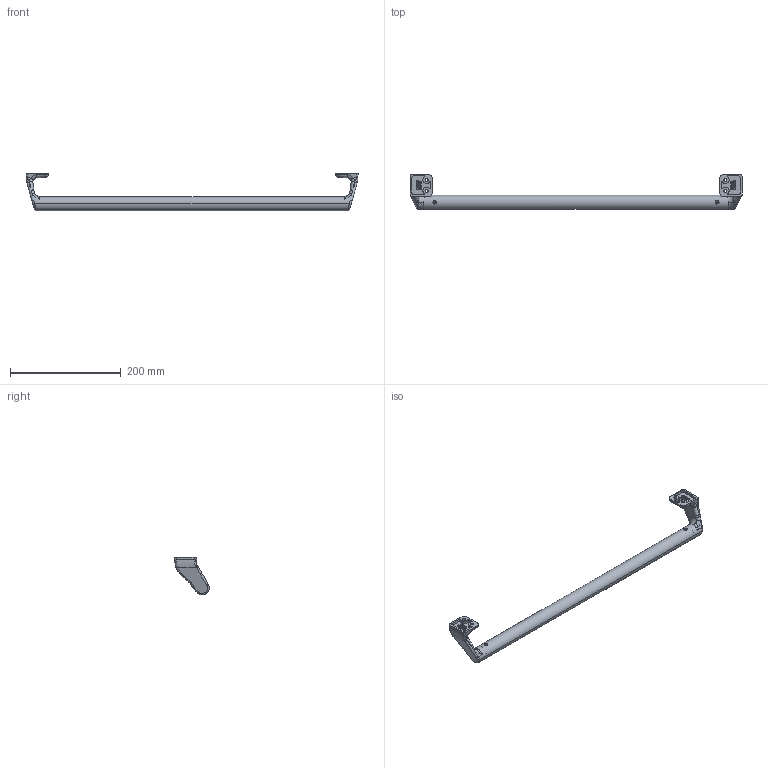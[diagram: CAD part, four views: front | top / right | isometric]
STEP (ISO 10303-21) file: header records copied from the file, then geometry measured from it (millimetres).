
FILE_DESCRIPTION (( 'STEP AP214' ), '1' );
FILE_NAME ('A73 KA-1223-4.STEP', '2016-11-24T02:35:27', ( '' ), ( '' ), 'SwSTEP 2.0', 'SolidWorks 2011', '' );
FILE_SCHEMA (( 'AUTOMOTIVE_DESIGN' ));
Length unit declared in the file: millimetre
Products named in the file (1): A73 KA-1223-4
Bounding box: 600 x 62.8 x 67.8 mm (x, y, z)
Volume: 143101.7 mm3; surface area: 105452.1 mm2
Topology: 1 solids, 1 shells, 520 faces, 1374 edges, 876 vertices
Faces by surface type: plane 254, bspline 146, cylinder 92, cone 28
Entity records: 23944 total; most frequent: CARTESIAN_POINT 12019, ORIENTED_EDGE 2724, DIRECTION 1936, EDGE_CURVE 1362, VERTEX_POINT 876, VECTOR 850, LINE 850, EDGE_LOOP 566
